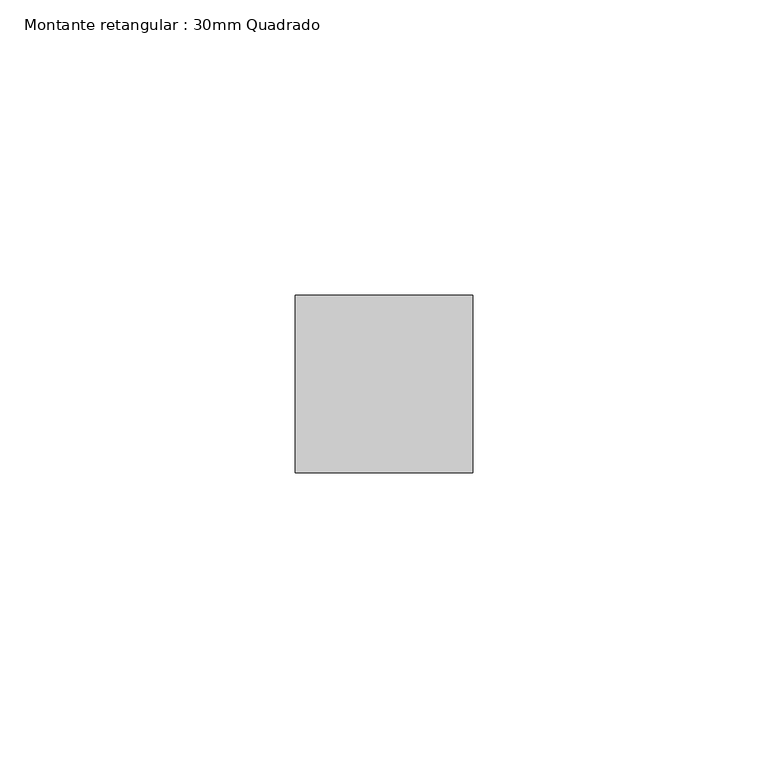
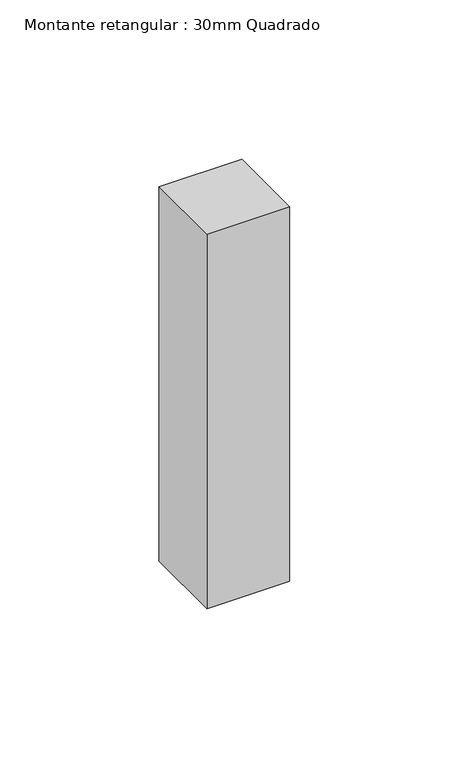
"""IFC4 building model written with IfcOpenShell, lengths in millimetres: member geometry, Montante retangular : 30mm Quadrado."""

import ifcopenshell
import ifcopenshell.guid

model = None  # the IFC model being written
_history = None  # IfcOwnerHistory: only IFC2X3 demands one
_inside = {}  # id of a spatial element -> (the spatial element, [elements in it])
_under = {}  # id of a project, library or spatial element -> (it, [spatial elements below it])
_declared = {}  # id of a project -> (the project, [libraries it declares])
_typed = {}  # id of a type object -> (the type object, [elements of that type])
_made_of = {}  # id of a material, layer set ... -> (it, [elements and type objects made of it])


def new_model(schema):
    """Start an empty IFC model of exactly this schema.

    Asked for "IFC4X3", IfcOpenShell would pick the latest addendum, in which some entities
    have other attributes; the version numbers below select the first issue.
    IFC2X3 requires an IfcOwnerHistory on every rooted entity: one is made here for all.
    """
    global model, _history
    if schema == "IFC4X3":
        model = ifcopenshell.file(schema_version=(4, 3, 0, 0))
    else:
        model = ifcopenshell.file(schema=schema)
    _inside.clear()
    _under.clear()
    _declared.clear()
    _typed.clear()
    _made_of.clear()
    _history = None
    if model.schema == "IFC2X3":
        org = make("IfcOrganization", Name="unknown")
        user = make(
            "IfcPersonAndOrganization",
            ThePerson=make("IfcPerson", FamilyName="unknown"),
            TheOrganization=org,
        )
        app = make(
            "IfcApplication",
            ApplicationDeveloper=org,
            Version="unknown",
            ApplicationFullName="unknown",
            ApplicationIdentifier="unknown",
        )
        _history = make(
            "IfcOwnerHistory",
            OwningUser=user,
            OwningApplication=app,
            ChangeAction="ADDED",
            CreationDate=0,
        )
    return model


def make(cls, **values):
    """One entity of the class cls with the attributes given. An attribute that is None is left unset."""
    return model.create_entity(
        cls, **{name: value for name, value in values.items() if value is not None}
    )


def rooted(cls, **values):
    """An entity with a GlobalId (a new one), such as an element, a storey or a relation."""
    return make(cls, GlobalId=ifcopenshell.guid.new(), OwnerHistory=_history, **values)


def si_unit(unit_type, name, prefix=None):
    """IfcSIUnit, for example si_unit("LENGTHUNIT", "METRE", prefix="MILLI")."""
    return make("IfcSIUnit", UnitType=unit_type, Prefix=prefix, Name=name)


def assignment(units):
    """IfcUnitAssignment: the units of a project."""
    return None if units is None else make("IfcUnitAssignment", Units=units)


def point(xyz):
    """IfcCartesianPoint."""
    return None if xyz is None else make("IfcCartesianPoint", Coordinates=xyz)


def direction(xyz):
    """IfcDirection."""
    return None if xyz is None else make("IfcDirection", DirectionRatios=xyz)


def frame(location, z_axis=None, x_axis=None):
    """IfcAxis2Placement3D, a coordinate frame: its origin and axes. An axis left out is left unset."""
    return make(
        "IfcAxis2Placement3D",
        Location=point(location),
        Axis=direction(z_axis),
        RefDirection=direction(x_axis),
    )


def origin():
    """The frame at (0, 0, 0) with its axes left unset."""
    return frame((0.0, 0.0, 0.0))


def place(relative_to, where):
    """IfcLocalPlacement: puts the frame where relative to a parent placement (None: the world)."""
    return make(
        "IfcLocalPlacement", PlacementRelTo=relative_to, RelativePlacement=where
    )


def context(
    kind, dimensions, precision=None, world=None, true_north=None, identifier=None
):
    """IfcGeometricRepresentationContext, for example the 3D "Model" context."""
    return make(
        "IfcGeometricRepresentationContext",
        ContextIdentifier=identifier,
        ContextType=kind,
        CoordinateSpaceDimension=dimensions,
        Precision=precision,
        WorldCoordinateSystem=world,
        TrueNorth=true_north,
    )


def project(units=None, contexts=None):
    """IfcProject with its units and contexts."""
    return rooted(
        "IfcProject",
        Name="project",
        RepresentationContexts=contexts,
        UnitsInContext=assignment(units),
    )


def spatial(cls, under=None, at=None, **own):
    """A site, building, storey or space (cls), placed at a placement, below another one or the project."""
    s = rooted(cls, ObjectPlacement=at, **own)
    if under is not None:
        _under.setdefault(under.id(), (under, []))[1].append(s)
    return s


def polyline(points):
    """IfcPolyline through the points."""
    return make("IfcPolyline", Points=[point(p) for p in points])


def outline(outer, holes=None, kind="AREA"):
    """IfcArbitraryClosedProfileDef: a profile drawn as a closed curve; with holes, ...WithVoids."""
    if holes is None:
        return make("IfcArbitraryClosedProfileDef", ProfileType=kind, OuterCurve=outer)
    return make(
        "IfcArbitraryProfileDefWithVoids",
        ProfileType=kind,
        OuterCurve=outer,
        InnerCurves=holes,
    )


def extrude(swept, where, along, depth):
    """IfcExtrudedAreaSolid: the profile swept, set in the frame where, extruded along a direction by depth."""
    return make(
        "IfcExtrudedAreaSolid",
        SweptArea=swept,
        Position=where,
        ExtrudedDirection=direction(along),
        Depth=depth,
    )


def shape(context_of_items, identifier, shape_type, items):
    """IfcShapeRepresentation: the items that make up one representation, for example the "Body"."""
    return make(
        "IfcShapeRepresentation",
        ContextOfItems=context_of_items,
        RepresentationIdentifier=identifier,
        RepresentationType=shape_type,
        Items=items,
    )


def source(mapping_origin, context_of_items, identifier, shape_type, items):
    """IfcRepresentationMap: a shape defined once, which mapped items show again and again."""
    return make(
        "IfcRepresentationMap",
        MappingOrigin=mapping_origin,
        MappedRepresentation=shape(context_of_items, identifier, shape_type, items),
    )


def transform(
    local_origin,
    x_axis=None,
    y_axis=None,
    z_axis=None,
    scale=None,
    scale2=None,
    scale3=None,
    uniform=True,
):
    """IfcCartesianTransformationOperator3D, or its non-uniform kind. x_axis, y_axis, z_axis: its Axis1, 2, 3."""
    if uniform:
        return make(
            "IfcCartesianTransformationOperator3D",
            Axis1=direction(x_axis),
            Axis2=direction(y_axis),
            LocalOrigin=point(local_origin),
            Scale=scale,
            Axis3=direction(z_axis),
        )
    return make(
        "IfcCartesianTransformationOperator3DnonUniform",
        Axis1=direction(x_axis),
        Axis2=direction(y_axis),
        LocalOrigin=point(local_origin),
        Scale=scale,
        Axis3=direction(z_axis),
        Scale2=scale2,
        Scale3=scale3,
    )


def mapped(mapping_source, mapping_target):
    """IfcMappedItem: shows the shape of a source again, moved by a transform."""
    return make(
        "IfcMappedItem", MappingSource=mapping_source, MappingTarget=mapping_target
    )


def made_of(thing, what):
    """Note that an element or type object is made of a material, layer set ...; save() writes the relation."""
    if what is not None:
        _made_of.setdefault(what.id(), (what, []))[1].append(thing)
    return thing


def element(
    cls,
    number,
    at=None,
    inside=None,
    cuts=None,
    type_object=None,
    material=None,
    context=None,
    identifier="Body",
    shape_type=None,
    held_by="IfcProductDefinitionShape",
    body=None,
    shapes=None,
    **own,
):
    """One element of the class cls, such as IfcWall. Its Tag is "e" and its number.

    at: its placement. inside: the storey or other place that contains it. cuts: it is an
    opening in that element (IfcRelVoidsElement). A single representation is given by context,
    identifier, shape_type and body (its items); several are given by shapes. held_by: the class
    of the entity that holds the representations. save() writes the other relations.
    """
    e = rooted(cls, Tag="e%d" % number, ObjectPlacement=at, **own)
    if body is not None:
        shapes = [shape(context, identifier, shape_type, body)]
    if shapes is not None:
        e.Representation = make(held_by, Representations=shapes)
    if inside is not None:
        _inside.setdefault(inside.id(), (inside, []))[1].append(e)
    if cuts is not None:
        rooted(
            "IfcRelVoidsElement", RelatingBuildingElement=cuts, RelatedOpeningElement=e
        )
    if type_object is not None:
        _typed.setdefault(type_object.id(), (type_object, []))[1].append(e)
    return made_of(e, material)


def aggregate(whole, parts):
    """IfcRelAggregates: a whole, such as a stair, and the parts it consists of."""
    return rooted("IfcRelAggregates", RelatingObject=whole, RelatedObjects=parts)


def save(model, path):
    """Write the relations noted so far, then the file.

    IfcRelAggregates (storeys below a building ...), IfcRelContainedInSpatialStructure (elements
    in a storey), IfcRelDefinesByType, IfcRelAssociatesMaterial and IfcRelDeclares: one each for
    every whole, place, type object, material and project.
    """
    for whole, parts in _under.values():
        aggregate(whole, parts)
    for where, things in _inside.values():
        rooted(
            "IfcRelContainedInSpatialStructure",
            RelatedElements=things,
            RelatingStructure=where,
        )
    for kind, things in _typed.values():
        rooted("IfcRelDefinesByType", RelatedObjects=things, RelatingType=kind)
    for what, things in _made_of.values():
        rooted("IfcRelAssociatesMaterial", RelatedObjects=things, RelatingMaterial=what)
    for by, libraries in _declared.values():
        rooted("IfcRelDeclares", RelatingContext=by, RelatedDefinitions=libraries)
    model.write(path)


def montante_retangular_30mm_quadrado_adf08955(model_context):
    return source(origin(), model_context, "Body", "SweptSolid", [
        extrude(outline(polyline([(0.0, 15.0), (0.0, -15.0), (-30.0, -15.0), (-30.0, 15.0), (0.0, 15.0)])), frame((0.0, 0.0, -143.5314594), z_axis=(0.0, 0.0, 1.0), x_axis=(1.0, 0.0, 0.0)), (0.0, 0.0, 1.0), 143.5314594),
    ])


if __name__ == "__main__":
    model = new_model("IFC4")
    model_context = context("Model", 3, world=origin())
    ifc_project = project(units=[si_unit("LENGTHUNIT", "METRE", prefix="MILLI")], contexts=[model_context])
    site = spatial("IfcSite", under=ifc_project)
    building = spatial("IfcBuilding", under=site)
    placement = place(None, origin())
    montante_retangular_30mm_quadrado_shape = montante_retangular_30mm_quadrado_adf08955(model_context)
    element("IfcMember", 1, ObjectType="Montante retangular : 30mm Quadrado", at=placement, inside=building, context=model_context, shape_type="MappedRepresentation", body=[
        mapped(montante_retangular_30mm_quadrado_shape, transform((0.0, 0.0, 0.0), x_axis=(1.0, 0.0, 0.0), y_axis=(0.0, 1.0, 0.0), z_axis=(0.0, 0.0, 1.0))),
    ])
    save(model, "model.ifc")
